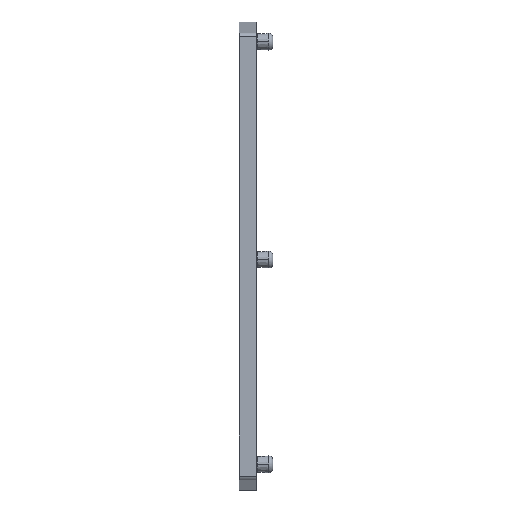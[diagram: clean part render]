
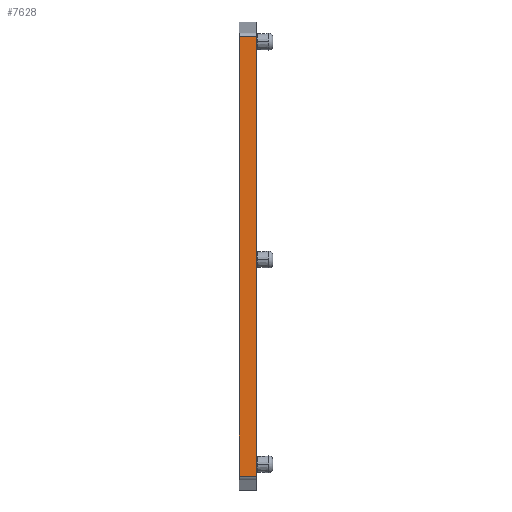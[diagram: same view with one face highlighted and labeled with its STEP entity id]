
A CAD part, top view. The second image highlights one B-rep face of the part: STEP entity #7628.
In plain terms, the highlighted planar face has unit normal (0, 0, 1).
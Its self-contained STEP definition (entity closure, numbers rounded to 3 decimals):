
#7628 = ADVANCED_FACE('',(#7629),#7643,.F.);
#7629 = FACE_BOUND('',#7630,.T.);
#7630 = EDGE_LOOP('',(#7631,#7654,#7670,#7686));
#7631 = ORIENTED_EDGE('',*,*,#7632,.T.);
#7632 = EDGE_CURVE('',#7633,#7635,#7637,.T.);
#7633 = VERTEX_POINT('',#7634);
#7634 = CARTESIAN_POINT('',(-20.8,-32.825,24.5)
  );
#7635 = VERTEX_POINT('',#7636);
#7636 = CARTESIAN_POINT('',(-18.6,-32.825,24.5)
  );
#7637 = SURFACE_CURVE('',#7638,(#7642),.PCURVE_S1.);
#7638 = LINE('',#7639,#7640);
#7639 = CARTESIAN_POINT('',(-19.7,-32.825,24.5)
  );
#7640 = VECTOR('',#7641,1.);
#7641 = DIRECTION('',(1.,0.,0.));
#7642 = PCURVE('',#7643,#7648);
#7643 = PLANE('',#7644);
#7644 = AXIS2_PLACEMENT_3D('',#7645,#7646,#7647);
#7645 = CARTESIAN_POINT('',(-20.,-21.821,24.5));
#7646 = DIRECTION('',(0.,0.,-1.));
#7647 = DIRECTION('',(0.,1.,0.));
#7648 = DEFINITIONAL_REPRESENTATION('',(#7649),#7653);
#7649 = LINE('',#7650,#7651);
#7650 = CARTESIAN_POINT('',(-11.004,0.3));
#7651 = VECTOR('',#7652,1.);
#7652 = DIRECTION('',(0.,1.));
#7653 = ( GEOMETRIC_REPRESENTATION_CONTEXT(2) 
PARAMETRIC_REPRESENTATION_CONTEXT() REPRESENTATION_CONTEXT('2D SPACE',''
  ) );
#7654 = ORIENTED_EDGE('',*,*,#7655,.F.);
#7655 = EDGE_CURVE('',#7656,#7635,#7658,.T.);
#7656 = VERTEX_POINT('',#7657);
#7657 = CARTESIAN_POINT('',(-18.6,23.532,24.5)
  );
#7658 = SURFACE_CURVE('',#7659,(#7663),.PCURVE_S1.);
#7659 = LINE('',#7660,#7661);
#7660 = CARTESIAN_POINT('',(-18.6,-4.646,24.5)
  );
#7661 = VECTOR('',#7662,1.);
#7662 = DIRECTION('',(0.,-1.,0.));
#7663 = PCURVE('',#7643,#7664);
#7664 = DEFINITIONAL_REPRESENTATION('',(#7665),#7669);
#7665 = LINE('',#7666,#7667);
#7666 = CARTESIAN_POINT('',(17.175,1.4));
#7667 = VECTOR('',#7668,1.);
#7668 = DIRECTION('',(-1.,0.));
#7669 = ( GEOMETRIC_REPRESENTATION_CONTEXT(2) 
PARAMETRIC_REPRESENTATION_CONTEXT() REPRESENTATION_CONTEXT('2D SPACE',''
  ) );
#7670 = ORIENTED_EDGE('',*,*,#7671,.F.);
#7671 = EDGE_CURVE('',#7672,#7656,#7674,.T.);
#7672 = VERTEX_POINT('',#7673);
#7673 = CARTESIAN_POINT('',(-20.8,23.532,24.5)
  );
#7674 = SURFACE_CURVE('',#7675,(#7679),.PCURVE_S1.);
#7675 = LINE('',#7676,#7677);
#7676 = CARTESIAN_POINT('',(-19.7,23.532,24.5)
  );
#7677 = VECTOR('',#7678,1.);
#7678 = DIRECTION('',(1.,0.,0.));
#7679 = PCURVE('',#7643,#7680);
#7680 = DEFINITIONAL_REPRESENTATION('',(#7681),#7685);
#7681 = LINE('',#7682,#7683);
#7682 = CARTESIAN_POINT('',(45.354,0.3));
#7683 = VECTOR('',#7684,1.);
#7684 = DIRECTION('',(0.,1.));
#7685 = ( GEOMETRIC_REPRESENTATION_CONTEXT(2) 
PARAMETRIC_REPRESENTATION_CONTEXT() REPRESENTATION_CONTEXT('2D SPACE',''
  ) );
#7686 = ORIENTED_EDGE('',*,*,#7687,.T.);
#7687 = EDGE_CURVE('',#7672,#7633,#7688,.T.);
#7688 = SURFACE_CURVE('',#7689,(#7693),.PCURVE_S1.);
#7689 = LINE('',#7690,#7691);
#7690 = CARTESIAN_POINT('',(-20.8,-4.646,24.5));
#7691 = VECTOR('',#7692,1.);
#7692 = DIRECTION('',(0.,-1.,0.));
#7693 = PCURVE('',#7643,#7694);
#7694 = DEFINITIONAL_REPRESENTATION('',(#7695),#7699);
#7695 = LINE('',#7696,#7697);
#7696 = CARTESIAN_POINT('',(17.175,-0.8));
#7697 = VECTOR('',#7698,1.);
#7698 = DIRECTION('',(-1.,0.));
#7699 = ( GEOMETRIC_REPRESENTATION_CONTEXT(2) 
PARAMETRIC_REPRESENTATION_CONTEXT() REPRESENTATION_CONTEXT('2D SPACE',''
  ) );
